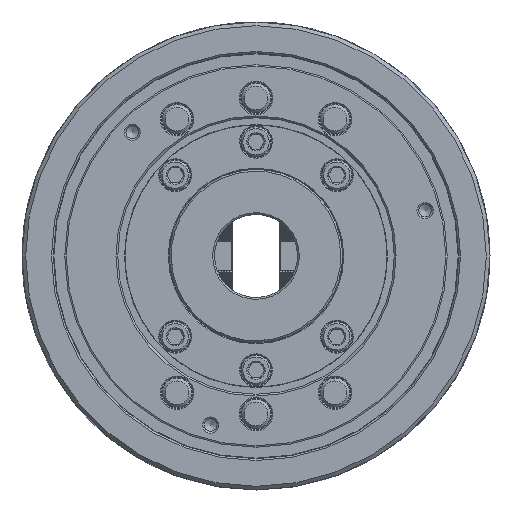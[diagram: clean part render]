
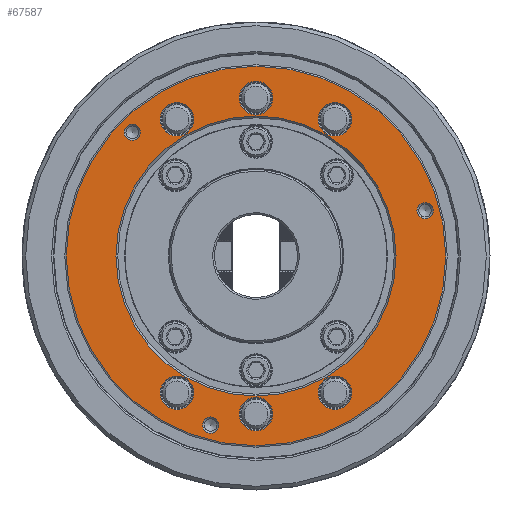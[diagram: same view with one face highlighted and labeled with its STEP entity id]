
A CAD part, left-side view. The second image highlights one B-rep face of the part: STEP entity #67587.
In plain terms, the highlighted planar face has unit normal (-1, 0, 0).
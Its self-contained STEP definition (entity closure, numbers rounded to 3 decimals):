
#572 = VERTEX_POINT ( 'NONE', #90837 ) ;
#910 = CARTESIAN_POINT ( 'NONE',  ( -95., 0., 76.625 ) ) ;
#983 = CARTESIAN_POINT ( 'NONE',  ( -95., 67.175, 67.175 ) ) ;
#1046 = EDGE_LOOP ( 'NONE', ( #75725 ) ) ;
#1425 = FACE_BOUND ( 'NONE', #46378, .T. ) ;
#1872 = FACE_BOUND ( 'NONE', #20887, .T. ) ;
#3610 = EDGE_CURVE ( 'NONE', #65636, #65636, #10417, .T. ) ;
#4902 = DIRECTION ( 'NONE',  ( 0., 0., 1. ) ) ;
#5351 = CARTESIAN_POINT ( 'NONE',  ( -95., 24.588, -91.763 ) ) ;
#5993 = AXIS2_PLACEMENT_3D ( 'NONE', #64685, #50373, #49454 ) ;
#6642 = EDGE_CURVE ( 'NONE', #9656, #9656, #44690, .T. ) ;
#7168 = CARTESIAN_POINT ( 'NONE',  ( -95., 0., 0. ) ) ;
#7674 = CIRCLE ( 'NONE', #78615, 103. ) ;
#9258 = DIRECTION ( 'NONE',  ( 1., 0., 0. ) ) ;
#9656 = VERTEX_POINT ( 'NONE', #86050 ) ;
#9678 = DIRECTION ( 'NONE',  ( 0., 0., -1. ) ) ;
#10417 = CIRCLE ( 'NONE', #5993, 9.1 ) ;
#10719 = AXIS2_PLACEMENT_3D ( 'NONE', #7168, #71438, #56248 ) ;
#11937 = CARTESIAN_POINT ( 'NONE',  ( -95., 0., -94.825 ) ) ;
#13125 = DIRECTION ( 'NONE',  ( 0., 0., -1. ) ) ;
#13408 = EDGE_LOOP ( 'NONE', ( #47823 ) ) ;
#13875 = EDGE_LOOP ( 'NONE', ( #30772 ) ) ;
#14492 = CARTESIAN_POINT ( 'NONE',  ( -95., 42.862, -83.34 ) ) ;
#14602 = DIRECTION ( 'NONE',  ( 0., 0., -1. ) ) ;
#14877 = PLANE ( 'NONE',  #46942 ) ;
#14915 = DIRECTION ( 'NONE',  ( -1., 0., 0. ) ) ;
#15043 = CARTESIAN_POINT ( 'NONE',  ( -95., -42.862, 74.24 ) ) ;
#15371 = CIRCLE ( 'NONE', #65533, 9.1 ) ;
#15387 = ORIENTED_EDGE ( 'NONE', *, *, #77166, .T. ) ;
#18439 = DIRECTION ( 'NONE',  ( 0., 0., -1. ) ) ;
#20887 = EDGE_LOOP ( 'NONE', ( #15387 ) ) ;
#22303 = DIRECTION ( 'NONE',  ( 0., 0., 1. ) ) ;
#23666 = AXIS2_PLACEMENT_3D ( 'NONE', #983, #29233, #71741 ) ;
#23910 = CARTESIAN_POINT ( 'NONE',  ( -95., 67.175, 71.575 ) ) ;
#24157 = ORIENTED_EDGE ( 'NONE', *, *, #76633, .F. ) ;
#26523 = CIRCLE ( 'NONE', #30984, 9.1 ) ;
#26960 = VERTEX_POINT ( 'NONE', #83407 ) ;
#27726 = AXIS2_PLACEMENT_3D ( 'NONE', #76568, #89573, #61323 ) ;
#27896 = VERTEX_POINT ( 'NONE', #57507 ) ;
#29233 = DIRECTION ( 'NONE',  ( -1., 0., 0. ) ) ;
#30772 = ORIENTED_EDGE ( 'NONE', *, *, #40684, .T. ) ;
#30883 = VERTEX_POINT ( 'NONE', #23910 ) ;
#30984 = AXIS2_PLACEMENT_3D ( 'NONE', #68629, #53883, #13125 ) ;
#33826 = EDGE_LOOP ( 'NONE', ( #57747 ) ) ;
#34135 = VERTEX_POINT ( 'NONE', #90605 ) ;
#34588 = VERTEX_POINT ( 'NONE', #11937 ) ;
#35799 = ORIENTED_EDGE ( 'NONE', *, *, #46759, .F. ) ;
#36117 = CARTESIAN_POINT ( 'NONE',  ( -95., -103., 0. ) ) ;
#36849 = VERTEX_POINT ( 'NONE', #70674 ) ;
#37609 = EDGE_CURVE ( 'NONE', #34588, #34588, #15371, .T. ) ;
#40328 = ORIENTED_EDGE ( 'NONE', *, *, #90103, .F. ) ;
#40684 = EDGE_CURVE ( 'NONE', #61450, #61450, #55595, .T. ) ;
#41958 = CARTESIAN_POINT ( 'NONE',  ( -95., -42.863, -74.24 ) ) ;
#42251 = EDGE_CURVE ( 'NONE', #34135, #34135, #91283, .T. ) ;
#43940 = CARTESIAN_POINT ( 'NONE',  ( -95., 0., -85.725 ) ) ;
#44438 = DIRECTION ( 'NONE',  ( 0., 0., -1. ) ) ;
#44690 = CIRCLE ( 'NONE', #84604, 9.1 ) ;
#46378 = EDGE_LOOP ( 'NONE', ( #35799 ) ) ;
#46719 = EDGE_LOOP ( 'NONE', ( #24157 ) ) ;
#46759 = EDGE_CURVE ( 'NONE', #36849, #36849, #59208, .T. ) ;
#46942 = AXIS2_PLACEMENT_3D ( 'NONE', #36117, #9258, #44438 ) ;
#47717 = FACE_BOUND ( 'NONE', #13408, .T. ) ;
#47823 = ORIENTED_EDGE ( 'NONE', *, *, #63986, .F. ) ;
#47890 = DIRECTION ( 'NONE',  ( -1., 0., 0. ) ) ;
#48169 = AXIS2_PLACEMENT_3D ( 'NONE', #15043, #76588, #14602 ) ;
#49153 = VERTEX_POINT ( 'NONE', #14492 ) ;
#49454 = DIRECTION ( 'NONE',  ( 0., 0., -1. ) ) ;
#50042 = FACE_BOUND ( 'NONE', #1046, .T. ) ;
#50373 = DIRECTION ( 'NONE',  ( 1., 0., 0. ) ) ;
#50474 = ORIENTED_EDGE ( 'NONE', *, *, #3610, .T. ) ;
#50478 = FACE_BOUND ( 'NONE', #87248, .T. ) ;
#53883 = DIRECTION ( 'NONE',  ( 1., 0., 0. ) ) ;
#55595 = CIRCLE ( 'NONE', #48169, 9.1 ) ;
#56248 = DIRECTION ( 'NONE',  ( 0., 0., -1. ) ) ;
#56996 = EDGE_LOOP ( 'NONE', ( #85325 ) ) ;
#57507 = CARTESIAN_POINT ( 'NONE',  ( -95., -91.763, 28.988 ) ) ;
#57747 = ORIENTED_EDGE ( 'NONE', *, *, #79342, .T. ) ;
#58819 = FACE_BOUND ( 'NONE', #56996, .T. ) ;
#59208 = CIRCLE ( 'NONE', #66555, 4.4 ) ;
#60148 = DIRECTION ( 'NONE',  ( 1., 0., 0. ) ) ;
#61323 = DIRECTION ( 'NONE',  ( 0., 0., -1. ) ) ;
#61450 = VERTEX_POINT ( 'NONE', #62341 ) ;
#62281 = EDGE_LOOP ( 'NONE', ( #69795 ) ) ;
#62341 = CARTESIAN_POINT ( 'NONE',  ( -95., -42.862, 65.14 ) ) ;
#63888 = FACE_BOUND ( 'NONE', #33826, .T. ) ;
#63986 = EDGE_CURVE ( 'NONE', #30883, #30883, #70947, .T. ) ;
#64685 = CARTESIAN_POINT ( 'NONE',  ( -95., 0., 85.725 ) ) ;
#65241 = FACE_OUTER_BOUND ( 'NONE', #46719, .T. ) ;
#65308 = CIRCLE ( 'NONE', #10719, 76. ) ;
#65533 = AXIS2_PLACEMENT_3D ( 'NONE', #43940, #60148, #9678 ) ;
#65636 = VERTEX_POINT ( 'NONE', #910 ) ;
#66555 = AXIS2_PLACEMENT_3D ( 'NONE', #5351, #47890, #4902 ) ;
#67039 = CIRCLE ( 'NONE', #81838, 4.4 ) ;
#67587 = ADVANCED_FACE ( 'NONE', ( #47717, #83359, #85214, #50478, #50042, #1425, #63888, #72179, #58819, #65241, #1872 ), #14877, .F. ) ;
#68629 = CARTESIAN_POINT ( 'NONE',  ( -95., 42.862, -74.24 ) ) ;
#69795 = ORIENTED_EDGE ( 'NONE', *, *, #37609, .T. ) ;
#70638 = DIRECTION ( 'NONE',  ( 0., 0., -1. ) ) ;
#70674 = CARTESIAN_POINT ( 'NONE',  ( -95., 24.588, -87.363 ) ) ;
#70947 = CIRCLE ( 'NONE', #23666, 4.4 ) ;
#71438 = DIRECTION ( 'NONE',  ( 1., 0., 0. ) ) ;
#71741 = DIRECTION ( 'NONE',  ( 0., 0., 1. ) ) ;
#72179 = FACE_BOUND ( 'NONE', #62281, .T. ) ;
#75725 = ORIENTED_EDGE ( 'NONE', *, *, #42251, .T. ) ;
#76568 = CARTESIAN_POINT ( 'NONE',  ( -95., 42.863, 74.24 ) ) ;
#76588 = DIRECTION ( 'NONE',  ( 1., 0., 0. ) ) ;
#76633 = EDGE_CURVE ( 'NONE', #26960, #26960, #7674, .T. ) ;
#77166 = EDGE_CURVE ( 'NONE', #572, #572, #65308, .T. ) ;
#78289 = CARTESIAN_POINT ( 'NONE',  ( -95., -91.763, 24.588 ) ) ;
#78615 = AXIS2_PLACEMENT_3D ( 'NONE', #80918, #81813, #18439 ) ;
#79342 = EDGE_CURVE ( 'NONE', #49153, #49153, #26523, .T. ) ;
#80918 = CARTESIAN_POINT ( 'NONE',  ( -95., 0., 0. ) ) ;
#81813 = DIRECTION ( 'NONE',  ( 1., 0., 0. ) ) ;
#81838 = AXIS2_PLACEMENT_3D ( 'NONE', #78289, #14915, #22303 ) ;
#83359 = FACE_BOUND ( 'NONE', #90666, .T. ) ;
#83407 = CARTESIAN_POINT ( 'NONE',  ( -95., 0., -103. ) ) ;
#84604 = AXIS2_PLACEMENT_3D ( 'NONE', #41958, #85465, #70638 ) ;
#85214 = FACE_BOUND ( 'NONE', #13875, .T. ) ;
#85325 = ORIENTED_EDGE ( 'NONE', *, *, #6642, .T. ) ;
#85465 = DIRECTION ( 'NONE',  ( 1., 0., 0. ) ) ;
#86050 = CARTESIAN_POINT ( 'NONE',  ( -95., -42.863, -83.34 ) ) ;
#87248 = EDGE_LOOP ( 'NONE', ( #50474 ) ) ;
#89573 = DIRECTION ( 'NONE',  ( 1., 0., 0. ) ) ;
#90103 = EDGE_CURVE ( 'NONE', #27896, #27896, #67039, .T. ) ;
#90605 = CARTESIAN_POINT ( 'NONE',  ( -95., 42.863, 65.14 ) ) ;
#90666 = EDGE_LOOP ( 'NONE', ( #40328 ) ) ;
#90837 = CARTESIAN_POINT ( 'NONE',  ( -95., 0., -76. ) ) ;
#91283 = CIRCLE ( 'NONE', #27726, 9.1 ) ;
